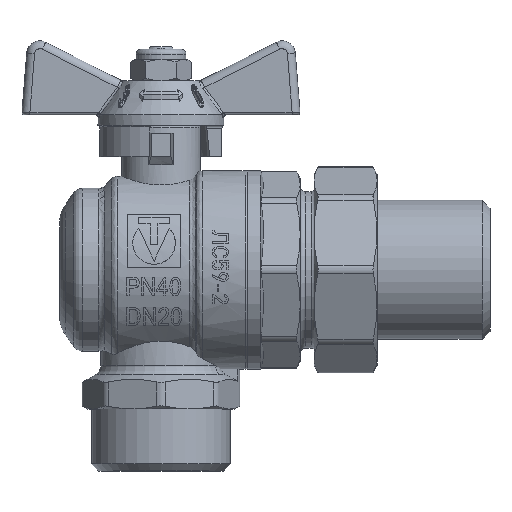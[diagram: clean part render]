
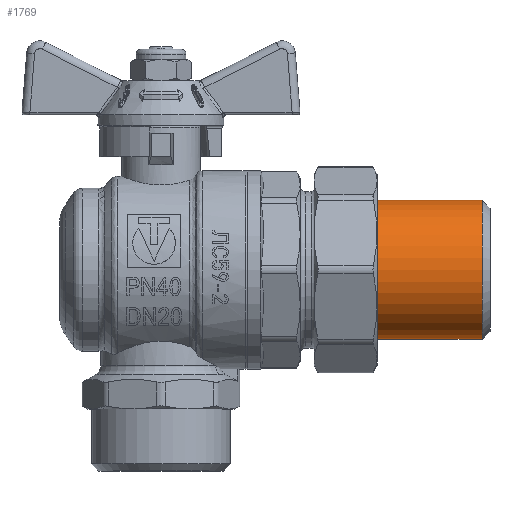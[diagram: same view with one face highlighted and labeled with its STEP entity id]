
A CAD part, top view. The second image highlights one B-rep face of the part: STEP entity #1769.
In plain terms, the highlighted cylindrical face has radius 13.22 mm (diameter 26.441 mm), a full revolution.
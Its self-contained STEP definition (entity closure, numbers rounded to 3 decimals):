
#1769=ADVANCED_FACE('',(#15033,#15035),#15037,.T.);
#15033=FACE_OUTER_BOUND('',#15034,.T.);
#15034=EDGE_LOOP('',(#26640));
#15035=FACE_OUTER_BOUND('',#15036,.T.);
#15036=EDGE_LOOP('',(#26641));
#15037=CYLINDRICAL_SURFACE('',#15038,13.221);
#15038=AXIS2_PLACEMENT_3D('',#15039,#15040,#15041);
#15039=CARTESIAN_POINT('',(31.623,0.,0.));
#15040=DIRECTION('',(1.,0.,0.));
#15041=DIRECTION('',(0.,0.,-1.));
#26640=ORIENTED_EDGE('',*,*,#32546,.F.);
#26641=ORIENTED_EDGE('',*,*,#32542,.F.);
#32542=EDGE_CURVE('',#41216,#41216,#41217,.F.);
#32546=EDGE_CURVE('',#41222,#41222,#41223,.T.);
#41216=VERTEX_POINT('',#72025);
#41217=CIRCLE('',#72026,13.221);
#41222=VERTEX_POINT('',#72041);
#41223=CIRCLE('',#72042,13.221);
#72025=CARTESIAN_POINT('',(39.123,0.,-13.221));
#72026=AXIS2_PLACEMENT_3D('',#72027,#72028,#72029);
#72027=CARTESIAN_POINT('',(39.123,0.,0.));
#72028=DIRECTION('',(1.,0.,0.));
#72029=DIRECTION('',(0.,0.,-1.));
#72041=CARTESIAN_POINT('',(61.123,0.,-13.221));
#72042=AXIS2_PLACEMENT_3D('',#72043,#72044,#72045);
#72043=CARTESIAN_POINT('',(61.123,0.,0.));
#72044=DIRECTION('',(1.,0.,0.));
#72045=DIRECTION('',(0.,0.,-1.));
